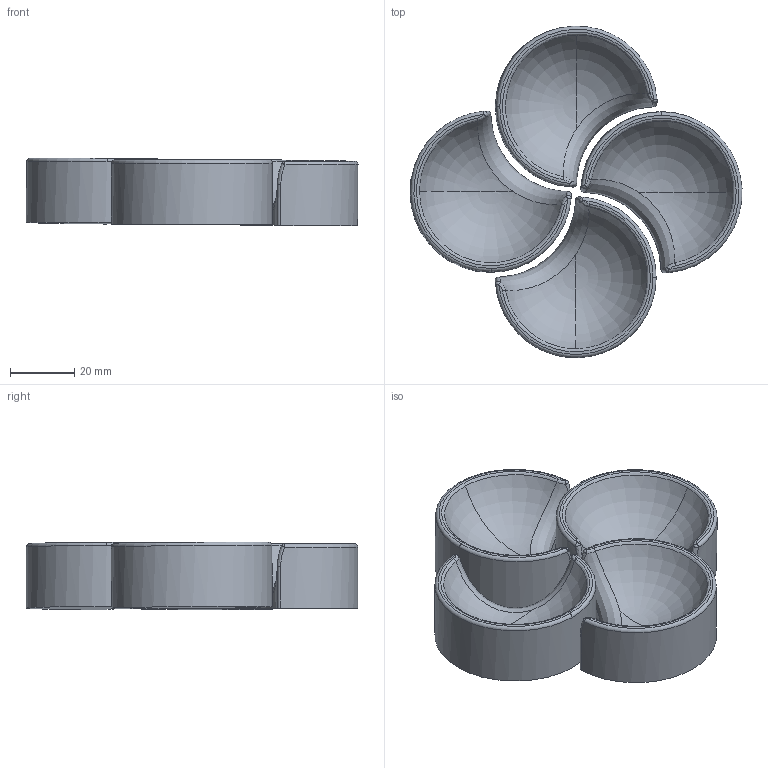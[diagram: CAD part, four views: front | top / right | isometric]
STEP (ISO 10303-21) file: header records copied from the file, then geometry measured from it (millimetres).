
FILE_DESCRIPTION (( 'STEP AP214' ), '1' );
FILE_NAME ('Assem1.STEP', '2023-02-18T09:26:21', ( '' ), ( '' ), 'SwSTEP 2.0', 'SolidWorks 2020', '' );
FILE_SCHEMA (( 'AUTOMOTIVE_DESIGN' ));
Length unit declared in the file: millimetre
Products named in the file (2): Assem1; Chopstick Holder set (one pice)
Assembly tree (4 placements, depth 2):
  Assem1
    Chopstick Holder set (one pice)  x4
Bounding box: 103.4 x 103.25 x 21.16 mm (x, y, z)
Volume: 79587.3 mm3; surface area: 25499.8 mm2
Topology: 4 solids, 4 shells, 72 faces, 172 edges, 92 vertices
Faces by surface type: bspline 24, torus 16, cylinder 16, plane 8, sphere 8
Entity records: 1329 total; most frequent: CARTESIAN_POINT 886, DIRECTION 84, ORIENTED_EDGE 78, AXIS2_PLACEMENT_3D 40, EDGE_CURVE 39, VERTEX_POINT 23, CIRCLE 21, EDGE_LOOP 18
